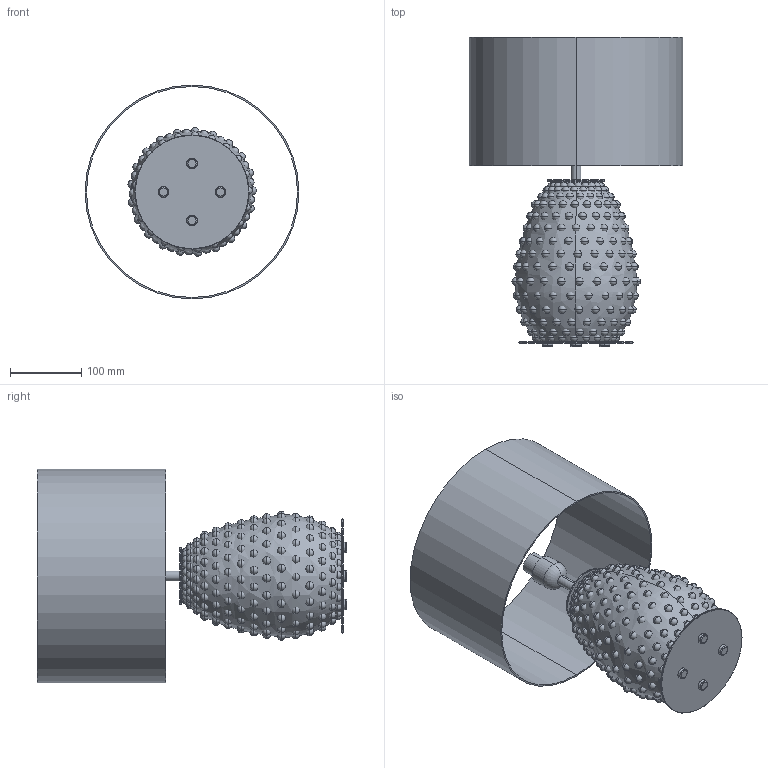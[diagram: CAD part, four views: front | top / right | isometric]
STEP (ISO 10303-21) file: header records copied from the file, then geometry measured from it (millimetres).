
FILE_DESCRIPTION (( 'STEP AP214' ), '1' );
FILE_NAME ('NAC135_1_A_CACTUS.STEP', '2024-02-05T11:46:45', ( '' ), ( '' ), 'SwSTEP 2.0', 'SolidWorks 2018', '' );
FILE_SCHEMA (( 'AUTOMOTIVE_DESIGN' ));
Length unit declared in the file: millimetre
Products named in the file (2): NAC135_1_A_CACTUS
Bounding box: 300 x 434 x 300 mm (x, y, z)
Volume: 1209019.4 mm3; surface area: 740135.3 mm2
Topology: 323 solids, 323 shells, 698 faces, 2329 edges, 1651 vertices
Faces by surface type: sphere 630, torus 20, plane 20, cylinder 16, cone 8, bspline 4
Entity records: 25524 total; most frequent: DIRECTION 2868, CARTESIAN_POINT 2771, ORIENTED_EDGE 1508, AXIS2_PLACEMENT_3D 1422, UNCERTAINTY_MEASURE_WITH_UNIT 1023, PRESENTATION_LAYER_ASSIGNMENT 1022, MECHANICAL_DESIGN_GEOMETRIC_PRESENTATION_REPRESENTATION 1022, SURFACE_STYLE_USAGE 1022
